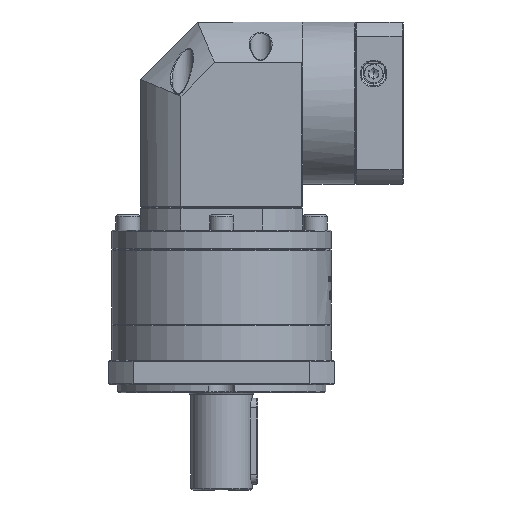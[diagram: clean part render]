
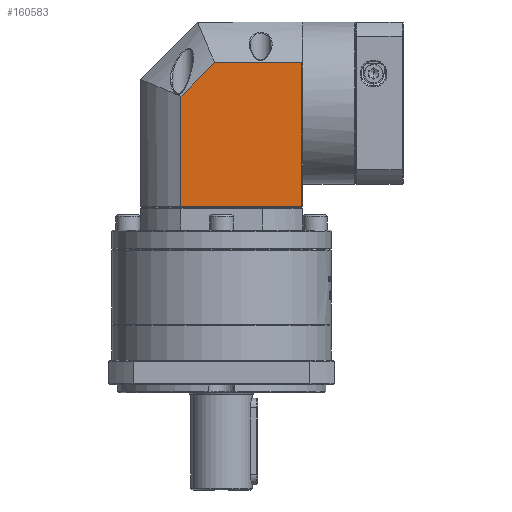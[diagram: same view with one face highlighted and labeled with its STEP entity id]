
A CAD part, front view. The second image highlights one B-rep face of the part: STEP entity #160583.
In plain terms, the highlighted planar face has unit normal (0, -1, 0).
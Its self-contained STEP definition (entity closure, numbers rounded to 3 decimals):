
#8590 = CARTESIAN_POINT ( 'NONE',  ( -100.552, -93.087, -42.319 ) ) ;
#14687 = CARTESIAN_POINT ( 'NONE',  ( -83.021, -93.087, 32.894 ) ) ;
#15657 = CARTESIAN_POINT ( 'NONE',  ( -37.338, -93.087, 32.894 ) ) ;
#19667 = ORIENTED_EDGE ( 'NONE', *, *, #103461, .F. ) ;
#20679 = CARTESIAN_POINT ( 'NONE',  ( -36.838, -93.087, -42.319 ) ) ;
#28976 = EDGE_LOOP ( 'NONE', ( #86110, #76025, #32591, #19667, #77848 ) ) ;
#29482 = VERTEX_POINT ( 'NONE', #166604 ) ;
#29618 = VECTOR ( 'NONE', #163094, 1000. ) ;
#32363 = EDGE_CURVE ( 'NONE', #147703, #50464, #67548, .T. ) ;
#32591 = ORIENTED_EDGE ( 'NONE', *, *, #156107, .F. ) ;
#32654 = FACE_OUTER_BOUND ( 'NONE', #28976, .T. ) ;
#50464 = VERTEX_POINT ( 'NONE', #69993 ) ;
#52537 = VECTOR ( 'NONE', #142154, 1000. ) ;
#54797 = CARTESIAN_POINT ( 'NONE',  ( -100.552, -93.087, 15.363 ) ) ;
#55426 = CARTESIAN_POINT ( 'NONE',  ( -37.338, -93.087, 54.181 ) ) ;
#56282 = EDGE_CURVE ( 'NONE', #147703, #29482, #171366, .T. ) ;
#60174 = LINE ( 'NONE', #164498, #64407 ) ;
#64407 = VECTOR ( 'NONE', #124059, 1000. ) ;
#65109 = DIRECTION ( 'NONE',  ( 0., 1., 0. ) ) ;
#65682 = CARTESIAN_POINT ( 'NONE',  ( -36.838, -93.087, 54.181 ) ) ;
#67548 = LINE ( 'NONE', #20679, #52537 ) ;
#68548 = DIRECTION ( 'NONE',  ( 0.707, 0., 0.707 ) ) ;
#69993 = CARTESIAN_POINT ( 'NONE',  ( -37.338, -93.087, -42.319 ) ) ;
#76025 = ORIENTED_EDGE ( 'NONE', *, *, #86601, .F. ) ;
#77848 = ORIENTED_EDGE ( 'NONE', *, *, #56282, .F. ) ;
#79207 = VERTEX_POINT ( 'NONE', #14687 ) ;
#86110 = ORIENTED_EDGE ( 'NONE', *, *, #32363, .T. ) ;
#86601 = EDGE_CURVE ( 'NONE', #154266, #50464, #97786, .T. ) ;
#90733 = PLANE ( 'NONE',  #161763 ) ;
#97786 = LINE ( 'NONE', #55426, #29618 ) ;
#103461 = EDGE_CURVE ( 'NONE', #29482, #79207, #169154, .T. ) ;
#109661 = VECTOR ( 'NONE', #149039, 1000. ) ;
#121698 = CARTESIAN_POINT ( 'NONE',  ( -100.552, -93.087, 54.181 ) ) ;
#124059 = DIRECTION ( 'NONE',  ( 1., 0., 0. ) ) ;
#139271 = VECTOR ( 'NONE', #68548, 1000. ) ;
#142154 = DIRECTION ( 'NONE',  ( 1., 0., 0. ) ) ;
#147703 = VERTEX_POINT ( 'NONE', #8590 ) ;
#149039 = DIRECTION ( 'NONE',  ( 0., 0., 1. ) ) ;
#154266 = VERTEX_POINT ( 'NONE', #15657 ) ;
#156107 = EDGE_CURVE ( 'NONE', #79207, #154266, #60174, .T. ) ;
#160238 = DIRECTION ( 'NONE',  ( -1., 0., 0. ) ) ;
#160583 = ADVANCED_FACE ( 'NONE', ( #32654 ), #90733, .F. ) ;
#161763 = AXIS2_PLACEMENT_3D ( 'NONE', #65682, #65109, #160238 ) ;
#163094 = DIRECTION ( 'NONE',  ( 0., 0., -1. ) ) ;
#164498 = CARTESIAN_POINT ( 'NONE',  ( -36.838, -93.087, 32.894 ) ) ;
#166604 = CARTESIAN_POINT ( 'NONE',  ( -100.552, -93.087, 15.363 ) ) ;
#169154 = LINE ( 'NONE', #54797, #139271 ) ;
#171366 = LINE ( 'NONE', #121698, #109661 ) ;
